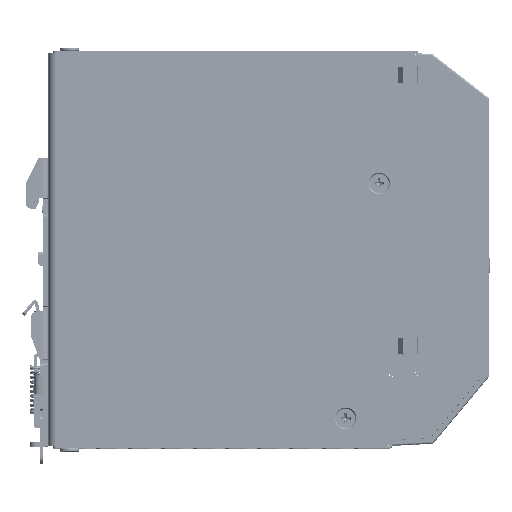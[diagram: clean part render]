
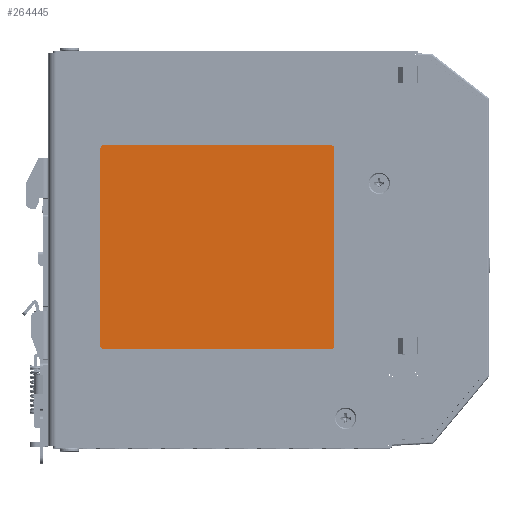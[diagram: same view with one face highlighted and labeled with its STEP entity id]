
A CAD part, top view. The second image highlights one B-rep face of the part: STEP entity #264445.
In plain terms, the highlighted planar face has unit normal (0, 0, 1).
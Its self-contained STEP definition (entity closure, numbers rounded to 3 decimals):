
#264214=CARTESIAN_POINT('',(-1.,-1.,0.));
#264215=DIRECTION('',(0.,0.,1.));
#264216=DIRECTION('',(1.,0.,0.));
#264217=AXIS2_PLACEMENT_3D('',#264214,#264215,#264216);
#264222=DIRECTION('',(0.,1.,0.));
#264223=VECTOR('',#264222,61.5);
#264224=CARTESIAN_POINT('',(0.,-62.5,0.));
#264225=LINE('',#264224,#264223);
#264229=CARTESIAN_POINT('',(-1.,-62.5,0.));
#264230=DIRECTION('',(0.,0.,1.));
#264231=DIRECTION('',(0.,-1.,0.));
#264232=AXIS2_PLACEMENT_3D('',#264229,#264230,#264231);
#264237=DIRECTION('',(1.,0.,0.));
#264238=VECTOR('',#264237,71.);
#264239=CARTESIAN_POINT('',(-72.,-63.5,0.));
#264240=LINE('',#264239,#264238);
#264244=CARTESIAN_POINT('',(-72.,-62.5,0.));
#264245=DIRECTION('',(0.,0.,1.));
#264246=DIRECTION('',(-1.,0.,0.));
#264247=AXIS2_PLACEMENT_3D('',#264244,#264245,#264246);
#264252=DIRECTION('',(0.,-1.,0.));
#264253=VECTOR('',#264252,61.5);
#264254=CARTESIAN_POINT('',(-73.,-1.,0.));
#264255=LINE('',#264254,#264253);
#264259=CARTESIAN_POINT('',(-72.,-1.,0.));
#264260=DIRECTION('',(0.,0.,1.));
#264261=DIRECTION('',(0.,1.,0.));
#264262=AXIS2_PLACEMENT_3D('',#264259,#264260,#264261);
#264267=DIRECTION('',(-1.,0.,0.));
#264268=VECTOR('',#264267,71.);
#264269=CARTESIAN_POINT('',(-1.,0.,0.));
#264270=LINE('',#264269,#264268);
#264394=CARTESIAN_POINT('',(0.,-1.,0.));
#264395=VERTEX_POINT('',#264394);
#264396=CARTESIAN_POINT('',(-1.,0.,0.));
#264397=VERTEX_POINT('',#264396);
#264402=CARTESIAN_POINT('',(-1.,-63.5,0.));
#264403=VERTEX_POINT('',#264402);
#264404=CARTESIAN_POINT('',(0.,-62.5,0.));
#264405=VERTEX_POINT('',#264404);
#264410=CARTESIAN_POINT('',(-73.,-62.5,0.));
#264411=VERTEX_POINT('',#264410);
#264412=CARTESIAN_POINT('',(-72.,-63.5,0.));
#264413=VERTEX_POINT('',#264412);
#264418=CARTESIAN_POINT('',(-72.,0.,0.));
#264419=VERTEX_POINT('',#264418);
#264420=CARTESIAN_POINT('',(-73.,-1.,0.));
#264421=VERTEX_POINT('',#264420);
#264422=CARTESIAN_POINT('',(0.,0.,0.));
#264423=DIRECTION('',(0.,0.,1.));
#264424=DIRECTION('',(1.,0.,0.));
#264425=AXIS2_PLACEMENT_3D('',#264422,#264423,#264424);
#264426=PLANE('',#264425);
#264428=ORIENTED_EDGE('',*,*,#264427,.F.);
#264430=ORIENTED_EDGE('',*,*,#264429,.F.);
#264432=ORIENTED_EDGE('',*,*,#264431,.F.);
#264434=ORIENTED_EDGE('',*,*,#264433,.F.);
#264436=ORIENTED_EDGE('',*,*,#264435,.F.);
#264438=ORIENTED_EDGE('',*,*,#264437,.F.);
#264440=ORIENTED_EDGE('',*,*,#264439,.F.);
#264442=ORIENTED_EDGE('',*,*,#264441,.F.);
#264443=EDGE_LOOP('',(#264428,#264430,#264432,#264434,#264436,#264438,#264440,
#264442));
#264444=FACE_OUTER_BOUND('',#264443,.F.);
#264218=CIRCLE('',#264217,1.);
#264233=CIRCLE('',#264232,1.);
#264248=CIRCLE('',#264247,1.);
#264263=CIRCLE('',#264262,1.);
#264427=EDGE_CURVE('',#264395,#264397,#264218,.T.);
#264429=EDGE_CURVE('',#264405,#264395,#264225,.T.);
#264431=EDGE_CURVE('',#264403,#264405,#264233,.T.);
#264433=EDGE_CURVE('',#264413,#264403,#264240,.T.);
#264435=EDGE_CURVE('',#264411,#264413,#264248,.T.);
#264437=EDGE_CURVE('',#264421,#264411,#264255,.T.);
#264439=EDGE_CURVE('',#264419,#264421,#264263,.T.);
#264441=EDGE_CURVE('',#264397,#264419,#264270,.T.);
#264445=ADVANCED_FACE('',(#264444),#264426,.T.);
